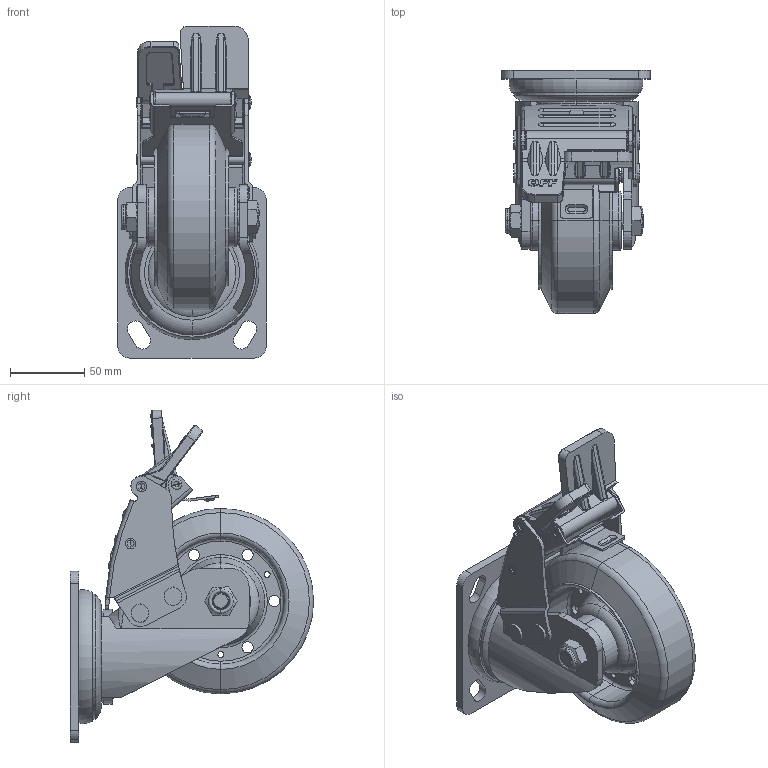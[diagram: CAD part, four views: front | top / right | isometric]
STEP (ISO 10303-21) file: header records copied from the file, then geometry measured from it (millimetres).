
FILE_DESCRIPTION (( 'STEP AP203' ), '1' );
FILE_NAME ('重型5寸AB胶刹.STEP', '2024-04-12T09:43:50', ( '微软用户' ), ( '微软中国' ), 'SwSTEP 2.0', 'SolidWorks 2008', '' );
FILE_SCHEMA (( 'CONFIG_CONTROL_DESIGN' ));
Length unit declared in the file: millimetre
Products named in the file (13): M12螺母_默认; 12｡ﾁ85ﾂﾝｸﾋ_ﾄｬﾈﾏ; M7  5寸刹车臂(55)_默认; 重型万向底板_默认; 5寸橡胶轮_默认; 笭倰5渡AB蝶价; M7 重型ON塑胶刹车手柄B_默认; M7 重型OFF塑胶解刹手柄B_默认; ф8×14平头钉_默认; 5寸胶，碟刹车锰片_默认; 5｡ﾁ60ﾎｲｿﾗｶ､_ﾄｬﾈﾏ; 重型5寸胶刹连接件_默认; 6｡ﾁ79ﾎｲｿﾗｶ､_ﾄｬﾈﾏ
Assembly tree (17 placements, depth 2):
  笭倰5渡AB蝶价
    6｡ﾁ79ﾎｲｿﾗｶ､_ﾄｬﾈﾏ  x2
    5寸橡胶轮_默认
    M7 重型OFF塑胶解刹手柄B_默认
    5寸胶，碟刹车锰片_默认
    5｡ﾁ60ﾎｲｿﾗｶ､_ﾄｬﾈﾏ  x2
    M7  5寸刹车臂(55)_默认
    ф8×14平头钉_默认  x4
    重型5寸胶刹连接件_默认
    M7 重型ON塑胶刹车手柄B_默认
    重型万向底板_默认
    M12螺母_默认
    12｡ﾁ85ﾂﾝｸﾋ_ﾄｬﾈﾏ
Bounding box: 100 x 163.9 x 223.84 mm (x, y, z)
Volume: 710338.6 mm3; surface area: 196400.5 mm2
Topology: 18 solids, 18 shells, 1234 faces, 3133 edges, 1981 vertices
Faces by surface type: cylinder 495, plane 429, torus 123, bspline 122, cone 36, sphere 29
Entity records: 47040 total; most frequent: CARTESIAN_POINT 17647, ORIENTED_EDGE 5990, DIRECTION 5650, EDGE_CURVE 2995, AXIS2_PLACEMENT_3D 2077, VERTEX_POINT 1900, VECTOR 1496, LINE 1496
